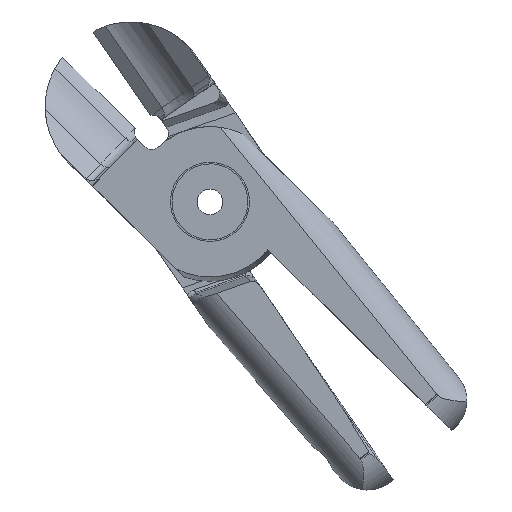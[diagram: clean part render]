
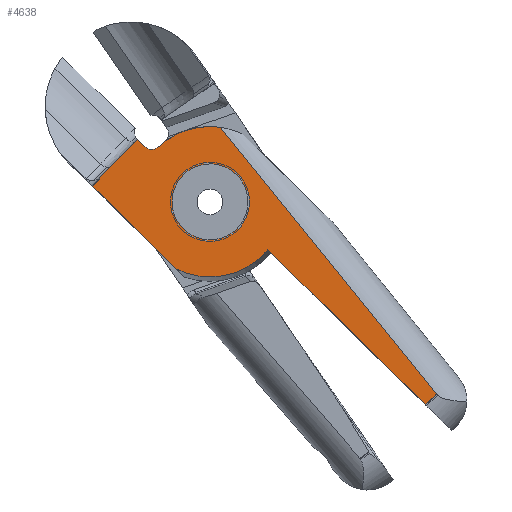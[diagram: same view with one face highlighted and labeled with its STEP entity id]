
A CAD part, top view. The second image highlights one B-rep face of the part: STEP entity #4638.
In plain terms, the highlighted planar face has unit normal (0, 0, 1) as drawn and (0, 0, -1) by its records, which use the part's own axes.
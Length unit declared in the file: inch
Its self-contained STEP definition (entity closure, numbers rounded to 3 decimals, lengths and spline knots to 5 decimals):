
#3589=CARTESIAN_POINT('',(0.8717,1.16708,0.099));
#3590=VERTEX_POINT('',#3589);
#3598=CARTESIAN_POINT('',(0.39231,1.16708,0.099));
#3599=VERTEX_POINT('',#3598);
#3606=CARTESIAN_POINT('',(0.632,1.16708,0.099));
#3607=DIRECTION('',(0.0,0.0,-1.0));
#3608=DIRECTION('',(1.0,0.0,0.0));
#3609=AXIS2_PLACEMENT_3D('',#3606,#3607,#3608);
#3610=CIRCLE('',#3609,0.2397);
#3611=EDGE_CURVE('',#3599,#3590,#3610,.T.);
#4148=CARTESIAN_POINT('',(1.10537,1.16708,0.099));
#4149=VERTEX_POINT('',#4148);
#4157=CARTESIAN_POINT('',(0.77888,1.61708,0.099));
#4158=VERTEX_POINT('',#4157);
#4159=CARTESIAN_POINT('',(0.632,1.16708,0.099));
#4160=DIRECTION('',(0.0,0.0,1.0));
#4161=DIRECTION('',(1.0,0.0,0.0));
#4162=AXIS2_PLACEMENT_3D('',#4159,#4160,#4161);
#4163=CIRCLE('',#4162,0.47336);
#4164=EDGE_CURVE('',#4149,#4158,#4163,.T.);
#4519=CARTESIAN_POINT('',(0.3487,0.78581,0.099));
#4520=VERTEX_POINT('',#4519);
#4528=CARTESIAN_POINT('',(2.4985,1.03075,0.099));
#4529=VERTEX_POINT('',#4528);
#4530=CARTESIAN_POINT('',(2.4985,1.03075,0.099));
#4531=DIRECTION('',(-0.994,-0.113,0.0));
#4532=VECTOR('',#4531,2.16372);
#4533=LINE('',#4530,#4532);
#4534=EDGE_CURVE('',#4529,#4520,#4533,.T.);
#4556=CARTESIAN_POINT('',(2.4985,0.67708,0.099));
#4557=DIRECTION('',(0.0,0.0,1.0));
#4558=DIRECTION('',(1.0,0.0,0.0));
#4559=AXIS2_PLACEMENT_3D('',#4556,#4557,#4558);
#4560=PLANE('',#4559);
#4561=ORIENTED_EDGE('',*,*,#4534,.T.);
#4562=CARTESIAN_POINT('',(0.1574,1.14762,0.099));
#4563=VERTEX_POINT('',#4562);
#4564=CARTESIAN_POINT('',(0.632,1.16708,0.099));
#4565=DIRECTION('',(0.0,0.0,1.0));
#4566=DIRECTION('',(1.0,0.0,0.0));
#4567=AXIS2_PLACEMENT_3D('',#4564,#4565,#4566);
#4568=CIRCLE('',#4567,0.475);
#4569=EDGE_CURVE('',#4563,#4520,#4568,.T.);
#4570=ORIENTED_EDGE('',*,*,#4569,.F.);
#4571=CARTESIAN_POINT('',(0.09545,1.20708,0.099));
#4572=VERTEX_POINT('',#4571);
#4573=CARTESIAN_POINT('',(0.09545,1.14508,0.099));
#4574=DIRECTION('',(0.0,0.0,-1.0));
#4575=DIRECTION('',(0.0,-1.0,0.0));
#4576=AXIS2_PLACEMENT_3D('',#4573,#4574,#4575);
#4577=CIRCLE('',#4576,0.062);
#4578=EDGE_CURVE('',#4572,#4563,#4577,.T.);
#4579=ORIENTED_EDGE('',*,*,#4578,.F.);
#4580=CARTESIAN_POINT('',(0.03196,1.20708,0.099));
#4581=VERTEX_POINT('',#4580);
#4582=CARTESIAN_POINT('',(0.03196,1.20708,0.099));
#4583=DIRECTION('',(1.0,0.0,0.0));
#4584=VECTOR('',#4583,0.06349);
#4585=LINE('',#4582,#4584);
#4586=EDGE_CURVE('',#4581,#4572,#4585,.T.);
#4587=ORIENTED_EDGE('',*,*,#4586,.F.);
#4588=CARTESIAN_POINT('',(0.03196,1.61708,0.099));
#4589=VERTEX_POINT('',#4588);
#4590=CARTESIAN_POINT('',(0.03196,1.61708,0.099));
#4591=DIRECTION('',(0.0,-1.0,0.0));
#4592=VECTOR('',#4591,0.41);
#4593=LINE('',#4590,#4592);
#4594=EDGE_CURVE('',#4589,#4581,#4593,.T.);
#4595=ORIENTED_EDGE('',*,*,#4594,.F.);
#4596=CARTESIAN_POINT('',(0.03196,1.61708,0.099));
#4597=DIRECTION('',(1.0,0.0,0.0));
#4598=VECTOR('',#4597,0.74692);
#4599=LINE('',#4596,#4598);
#4600=EDGE_CURVE('',#4589,#4158,#4599,.T.);
#4601=ORIENTED_EDGE('',*,*,#4600,.T.);
#4602=ORIENTED_EDGE('',*,*,#4164,.F.);
#4603=CARTESIAN_POINT('',(1.10362,1.12647,0.099));
#4604=VERTEX_POINT('',#4603);
#4605=CARTESIAN_POINT('',(0.632,1.16708,0.099));
#4606=DIRECTION('',(0.0,0.0,1.0));
#4607=DIRECTION('',(1.0,0.0,0.0));
#4608=AXIS2_PLACEMENT_3D('',#4605,#4606,#4607);
#4609=CIRCLE('',#4608,0.47336);
#4610=EDGE_CURVE('',#4604,#4149,#4609,.T.);
#4611=ORIENTED_EDGE('',*,*,#4610,.F.);
#4612=CARTESIAN_POINT('',(2.4985,1.12647,0.099));
#4613=VERTEX_POINT('',#4612);
#4614=CARTESIAN_POINT('',(2.4985,1.12647,0.099));
#4615=DIRECTION('',(-1.0,0.,0.));
#4616=VECTOR('',#4615,1.39488);
#4617=LINE('',#4614,#4616);
#4618=EDGE_CURVE('',#4613,#4604,#4617,.T.);
#4619=ORIENTED_EDGE('',*,*,#4618,.F.);
#4620=CARTESIAN_POINT('',(2.4985,1.03075,0.099));
#4621=DIRECTION('',(0.0,1.0,0.0));
#4622=VECTOR('',#4621,0.09572);
#4623=LINE('',#4620,#4622);
#4624=EDGE_CURVE('',#4529,#4613,#4623,.T.);
#4625=ORIENTED_EDGE('',*,*,#4624,.F.);
#4626=EDGE_LOOP('',(#4561,#4570,#4579,#4587,#4595,#4601,#4602,#4611,#4619,#4625));
#4627=FACE_OUTER_BOUND('',#4626,.T.);
#4628=ORIENTED_EDGE('',*,*,#3611,.F.);
#4629=CARTESIAN_POINT('',(0.632,1.16708,0.099));
#4630=DIRECTION('',(0.0,0.0,-1.0));
#4631=DIRECTION('',(1.0,0.0,0.0));
#4632=AXIS2_PLACEMENT_3D('',#4629,#4630,#4631);
#4633=CIRCLE('',#4632,0.2397);
#4634=EDGE_CURVE('',#3590,#3599,#4633,.T.);
#4635=ORIENTED_EDGE('',*,*,#4634,.F.);
#4636=EDGE_LOOP('',(#4628,#4635));
#4637=FACE_BOUND('',#4636,.T.);
#4638=ADVANCED_FACE('',(#4627,#4637),#4560,.F.);
